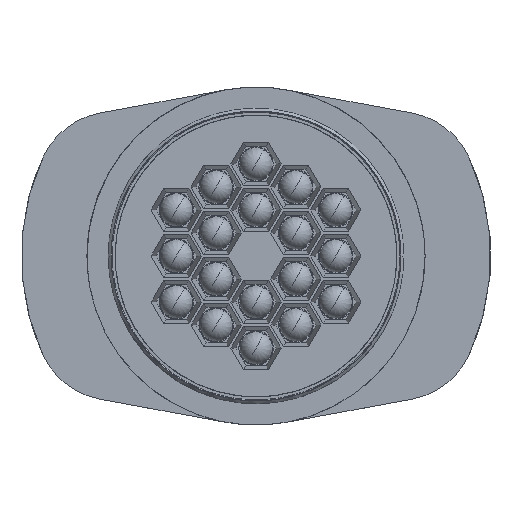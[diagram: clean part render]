
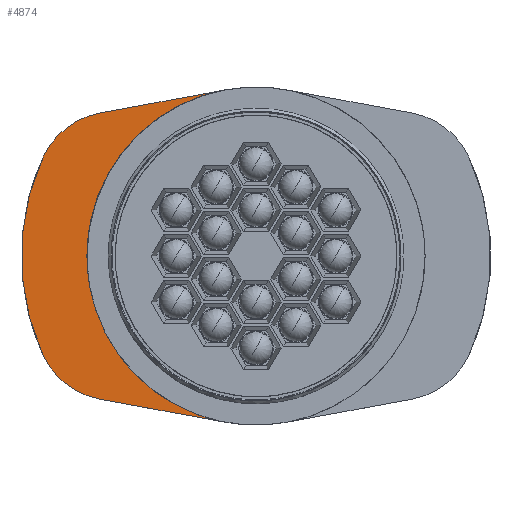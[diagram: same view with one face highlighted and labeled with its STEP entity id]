
A CAD part, top view. The second image highlights one B-rep face of the part: STEP entity #4874.
In plain terms, the highlighted planar face has unit normal (0, 0, 1) as drawn and (0, 0, -1) by its records, which use the part's own axes.
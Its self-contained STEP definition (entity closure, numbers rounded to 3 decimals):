
#4874=ADVANCED_FACE('',(#5147),#10264,.T.);
#5147=FACE_OUTER_BOUND('',#5420,.T.);
#5420=EDGE_LOOP('',(#5754,#5755,#5756,#5757,#5758,#5759));
#5754=ORIENTED_EDGE('',*,*,#6969,.T.);
#5755=ORIENTED_EDGE('',*,*,#6970,.T.);
#5756=ORIENTED_EDGE('',*,*,#6971,.T.);
#5757=ORIENTED_EDGE('',*,*,#6972,.T.);
#5758=ORIENTED_EDGE('',*,*,#6973,.T.);
#5759=ORIENTED_EDGE('',*,*,#6974,.T.);
#6969=EDGE_CURVE('',#9215,#9216,#8886,.T.);
#6970=EDGE_CURVE('',#9216,#9217,#8092,.T.);
#6971=EDGE_CURVE('',#9217,#9218,#8887,.T.);
#6972=EDGE_CURVE('',#9218,#9219,#8888,.T.);
#6973=EDGE_CURVE('',#9219,#9220,#8889,.T.);
#6974=EDGE_CURVE('',#9220,#9215,#8093,.T.);
#8092=B_SPLINE_CURVE_WITH_KNOTS('',1,(#10904,#10905),.UNSPECIFIED.,.F.,
 .F.,(2,2),(0.,40.731),.UNSPECIFIED.);
#8093=B_SPLINE_CURVE_WITH_KNOTS('',1,(#10915,#10916),.UNSPECIFIED.,.F.,
 .F.,(2,2),(0.,40.731),.UNSPECIFIED.);
#8886=(
BOUNDED_CURVE()
B_SPLINE_CURVE(2,(#10899,#10900,#10901,#10902,#10903),.UNSPECIFIED.,.F.,
 .F.)
B_SPLINE_CURVE_WITH_KNOTS((3,2,3),(0.,74.927,149.854),
 .UNSPECIFIED.)
CURVE()
GEOMETRIC_REPRESENTATION_ITEM()
RATIONAL_B_SPLINE_CURVE((1.,0.769,1.,0.769,1.))
REPRESENTATION_ITEM('')
);
#8887=(
BOUNDED_CURVE()
B_SPLINE_CURVE(2,(#10906,#10907,#10908),.UNSPECIFIED.,.F.,.F.)
B_SPLINE_CURVE_WITH_KNOTS((3,3),(0.,23.802),.UNSPECIFIED.)
CURVE()
GEOMETRIC_REPRESENTATION_ITEM()
RATIONAL_B_SPLINE_CURVE((1.,0.889,1.))
REPRESENTATION_ITEM('')
);
#8888=(
BOUNDED_CURVE()
B_SPLINE_CURVE(2,(#10909,#10910,#10911),.UNSPECIFIED.,.F.,.F.)
B_SPLINE_CURVE_WITH_KNOTS((3,3),(0.,65.32),.UNSPECIFIED.)
CURVE()
GEOMETRIC_REPRESENTATION_ITEM()
RATIONAL_B_SPLINE_CURVE((1.,0.907,1.))
REPRESENTATION_ITEM('')
);
#8889=(
BOUNDED_CURVE()
B_SPLINE_CURVE(2,(#10912,#10913,#10914),.UNSPECIFIED.,.F.,.F.)
B_SPLINE_CURVE_WITH_KNOTS((3,3),(0.,23.802),.UNSPECIFIED.)
CURVE()
GEOMETRIC_REPRESENTATION_ITEM()
RATIONAL_B_SPLINE_CURVE((1.,0.889,1.))
REPRESENTATION_ITEM('')
);
#9215=VERTEX_POINT('',#10893);
#9216=VERTEX_POINT('',#10894);
#9217=VERTEX_POINT('',#10895);
#9218=VERTEX_POINT('',#10896);
#9219=VERTEX_POINT('',#10897);
#9220=VERTEX_POINT('',#10898);
#10264=PLANE('',#10489);
#10489=AXIS2_PLACEMENT_3D('',#10892,#10689,$);
#10689=DIRECTION('',(0.,0.,-1.));
#10892=CARTESIAN_POINT('',(90.008,-63.715,12.5));
#10893=CARTESIAN_POINT('',(9.841,-53.096,12.5));
#10894=CARTESIAN_POINT('',(9.841,53.096,12.5));
#10895=CARTESIAN_POINT('',(49.89,45.673,12.5));
#10896=CARTESIAN_POINT('',(68.,31.638,12.5));
#10897=CARTESIAN_POINT('',(68.,-31.638,12.5));
#10898=CARTESIAN_POINT('',(49.89,-45.673,12.5));
#10899=CARTESIAN_POINT('',(9.841,-53.096,12.5));
#10900=CARTESIAN_POINT('',(54.,-44.911,12.5));
#10901=CARTESIAN_POINT('',(54.,0.,12.5));
#10902=CARTESIAN_POINT('',(54.,44.911,12.5));
#10903=CARTESIAN_POINT('',(9.841,53.096,12.5));
#10904=CARTESIAN_POINT('',(9.841,53.096,12.5));
#10905=CARTESIAN_POINT('',(49.89,45.673,12.5));
#10906=CARTESIAN_POINT('',(49.89,45.673,12.5));
#10907=CARTESIAN_POINT('',(62.563,43.324,12.5));
#10908=CARTESIAN_POINT('',(68.,31.638,12.5));
#10909=CARTESIAN_POINT('',(68.,31.638,12.5));
#10910=CARTESIAN_POINT('',(82.72,0.,12.5));
#10911=CARTESIAN_POINT('',(68.,-31.638,12.5));
#10912=CARTESIAN_POINT('',(68.,-31.638,12.5));
#10913=CARTESIAN_POINT('',(62.563,-43.324,12.5));
#10914=CARTESIAN_POINT('',(49.89,-45.673,12.5));
#10915=CARTESIAN_POINT('',(49.89,-45.673,12.5));
#10916=CARTESIAN_POINT('',(9.841,-53.096,12.5));
